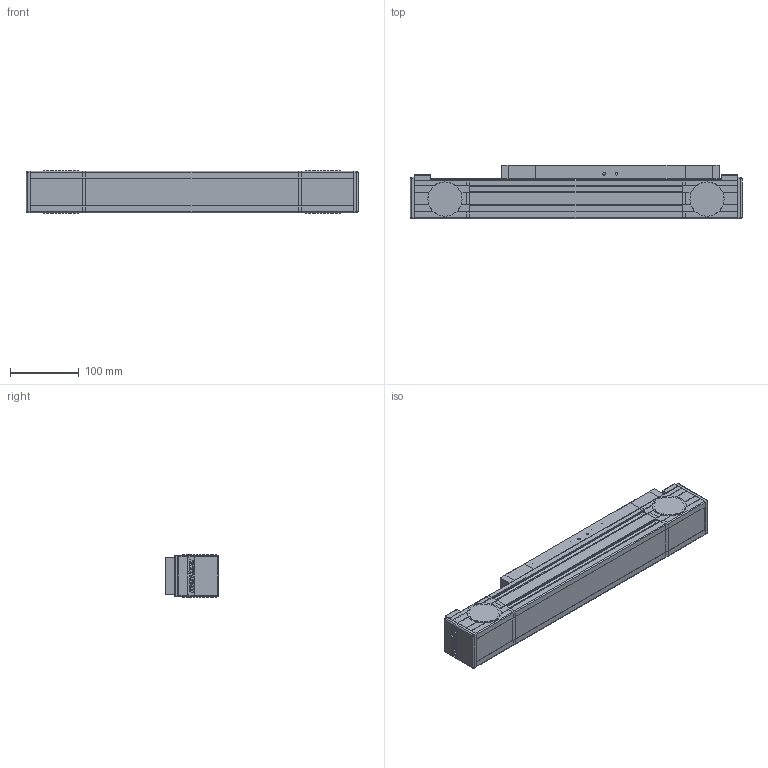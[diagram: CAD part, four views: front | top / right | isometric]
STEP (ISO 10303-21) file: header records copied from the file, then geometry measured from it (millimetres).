
FILE_DESCRIPTION((''),'2;1');
FILE_NAME('K60-100M_ASM','2016-11-29T',('STAFF'),(''),'PRO/ENGINEER BY PARAMETRIC TECHNOLOGY CORPORATION, 2009440','PRO/ENGINEER BY PARAMETRIC TECHNOLOGY CORPORATION, 2009440','');
FILE_SCHEMA(('CONFIG_CONTROL_DESIGN'));
Length unit declared in the file: millimetre
Products named in the file (20): BLOCK_MAIN-60; BLOCK_SLIDER-60; TROLLEY-CAP-60; SIDE_SLIDER_40MM; SIDE_SLIDER_CAP; SIDE_SLIDER_ASSY_40MM_ASM; MOVING-TROLLEY-60_ASM; BLOCK_DRIVER-60; PROTECTIVE_CAP-60; STEEL-STRIP-FIXED-60; PLATE_JOIN-60; LATERAL_CAP-60; LATERAL_CAP-60-1; BELT_60; DRIVING-BASE-60_ASM; BELT60_20; 6807; BELT60_20_ASM; DRIVING-BASE-60-20_ASM; K60-100M_ASM
Assembly tree (28 placements, depth 4):
  K60-100M_ASM
    BLOCK_MAIN-60
    MOVING-TROLLEY-60_ASM
      BLOCK_SLIDER-60
      TROLLEY-CAP-60  x2
      SIDE_SLIDER_ASSY_40MM_ASM  x2
        SIDE_SLIDER_40MM
        SIDE_SLIDER_CAP
    DRIVING-BASE-60_ASM
      BLOCK_DRIVER-60
      PROTECTIVE_CAP-60
      STEEL-STRIP-FIXED-60
      PLATE_JOIN-60
      LATERAL_CAP-60
      LATERAL_CAP-60-1
      BELT_60
    DRIVING-BASE-60-20_ASM
      BLOCK_DRIVER-60
      PROTECTIVE_CAP-60
      STEEL-STRIP-FIXED-60
      PLATE_JOIN-60
      LATERAL_CAP-60
      LATERAL_CAP-60-1
      BELT60_20_ASM
        BELT60_20
        6807  x2
Bounding box: 484 x 78.1 x 61.38 mm (x, y, z)
Volume: 1670674 mm3; surface area: 365743 mm2
Topology: 26 solids, 26 shells, 1250 faces, 3361 edges, 2210 vertices
Faces by surface type: plane 1013, cylinder 203, cone 26, bspline 8
Entity records: 23928 total; most frequent: CARTESIAN_POINT 4463, ORIENTED_EDGE 3976, DIRECTION 3954, EDGE_CURVE 1988, VECTOR 1576, LINE 1576, VERTEX_POINT 1308, AXIS2_PLACEMENT_3D 1189
